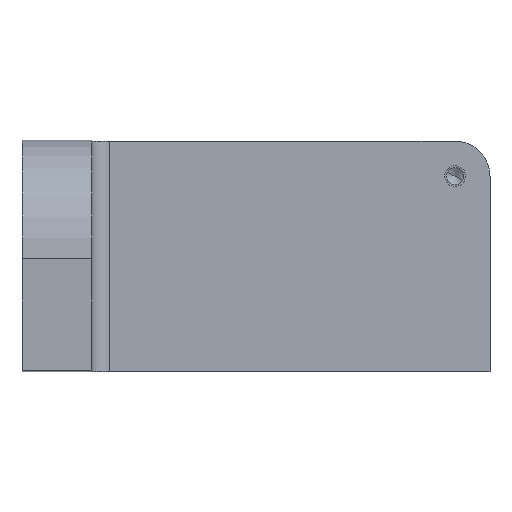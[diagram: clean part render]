
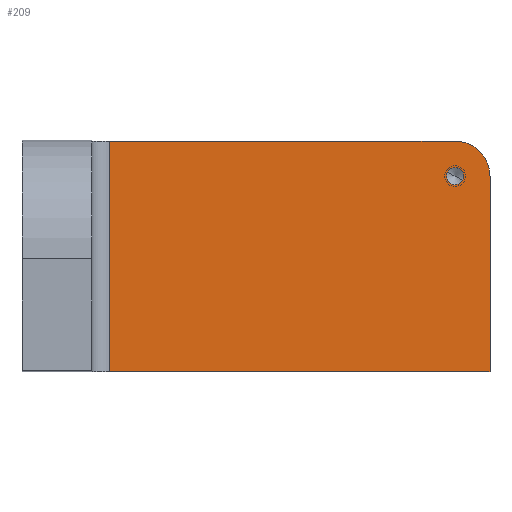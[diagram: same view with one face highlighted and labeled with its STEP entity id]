
A CAD part, top view. The second image highlights one B-rep face of the part: STEP entity #209.
In plain terms, the highlighted planar face has unit normal (0, 0, 1).
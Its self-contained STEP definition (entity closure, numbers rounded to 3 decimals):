
#144=CARTESIAN_POINT('Axis2P3D Location',(0.,0.,20.)) ;
#149=CARTESIAN_POINT('Line Origine',(79.5,0.,20.)) ;
#153=CARTESIAN_POINT('Vertex',(25.,0.,20.)) ;
#155=CARTESIAN_POINT('Vertex',(134.,0.,20.)) ;
#158=CARTESIAN_POINT('Line Origine',(134.,28.,20.)) ;
#162=CARTESIAN_POINT('Vertex',(134.,56.,20.)) ;
#165=CARTESIAN_POINT('Axis2P3D Location',(124.,56.,20.)) ;
#169=CARTESIAN_POINT('Vertex',(124.,66.,20.)) ;
#172=CARTESIAN_POINT('Line Origine',(74.5,66.,20.)) ;
#176=CARTESIAN_POINT('Vertex',(25.,66.,20.)) ;
#179=CARTESIAN_POINT('Line Origine',(25.,33.,20.)) ;
#191=CARTESIAN_POINT('Axis2P3D Location',(124.,56.,20.)) ;
#195=CARTESIAN_POINT('Vertex',(121.842,57.179,20.)) ;
#197=CARTESIAN_POINT('Vertex',(126.158,54.821,20.)) ;
#200=CARTESIAN_POINT('Axis2P3D Location',(124.,56.,20.)) ;
#145=DIRECTION('Axis2P3D Direction',(0.,0.,1.)) ;
#146=DIRECTION('Axis2P3D XDirection',(1.,0.,0.)) ;
#150=DIRECTION('Vector Direction',(1.,0.,0.)) ;
#159=DIRECTION('Vector Direction',(0.,1.,0.)) ;
#166=DIRECTION('Axis2P3D Direction',(0.,0.,1.)) ;
#173=DIRECTION('Vector Direction',(-1.,0.,0.)) ;
#180=DIRECTION('Vector Direction',(0.,-1.,0.)) ;
#192=DIRECTION('Axis2P3D Direction',(0.,0.,1.)) ;
#201=DIRECTION('Axis2P3D Direction',(0.,0.,1.)) ;
#147=AXIS2_PLACEMENT_3D('Plane Axis2P3D',#144,#145,#146) ;
#167=AXIS2_PLACEMENT_3D('Circle Axis2P3D',#165,#166,$) ;
#193=AXIS2_PLACEMENT_3D('Circle Axis2P3D',#191,#192,$) ;
#202=AXIS2_PLACEMENT_3D('Circle Axis2P3D',#200,#201,$) ;
#185=ORIENTED_EDGE('',*,*,#157,.T.) ;
#186=ORIENTED_EDGE('',*,*,#164,.T.) ;
#187=ORIENTED_EDGE('',*,*,#171,.T.) ;
#188=ORIENTED_EDGE('',*,*,#178,.T.) ;
#189=ORIENTED_EDGE('',*,*,#183,.F.) ;
#206=ORIENTED_EDGE('',*,*,#199,.F.) ;
#207=ORIENTED_EDGE('',*,*,#204,.F.) ;
#208=FACE_BOUND('',#205,.T.) ;
#151=VECTOR('Line Direction',#150,1.) ;
#160=VECTOR('Line Direction',#159,1.) ;
#174=VECTOR('Line Direction',#173,1.) ;
#181=VECTOR('Line Direction',#180,1.) ;
#209=ADVANCED_FACE('PartBody',(#190,#208),#148,.T.) ;
#168=CIRCLE('generated circle',#167,10.) ;
#194=CIRCLE('generated circle',#193,2.459) ;
#203=CIRCLE('generated circle',#202,2.459) ;
#157=EDGE_CURVE('',#154,#156,#152,.T.) ;
#164=EDGE_CURVE('',#156,#163,#161,.T.) ;
#171=EDGE_CURVE('',#163,#170,#168,.T.) ;
#178=EDGE_CURVE('',#170,#177,#175,.T.) ;
#183=EDGE_CURVE('',#154,#177,#182,.F.) ;
#199=EDGE_CURVE('',#196,#198,#194,.T.) ;
#204=EDGE_CURVE('',#198,#196,#203,.T.) ;
#184=EDGE_LOOP('',(#185,#186,#187,#188,#189)) ;
#205=EDGE_LOOP('',(#206,#207)) ;
#190=FACE_OUTER_BOUND('',#184,.T.) ;
#152=LINE('Line',#149,#151) ;
#161=LINE('Line',#158,#160) ;
#175=LINE('Line',#172,#174) ;
#182=LINE('Line',#179,#181) ;
#148=PLANE('',#147) ;
#154=VERTEX_POINT('',#153) ;
#156=VERTEX_POINT('',#155) ;
#163=VERTEX_POINT('',#162) ;
#170=VERTEX_POINT('',#169) ;
#177=VERTEX_POINT('',#176) ;
#196=VERTEX_POINT('',#195) ;
#198=VERTEX_POINT('',#197) ;
